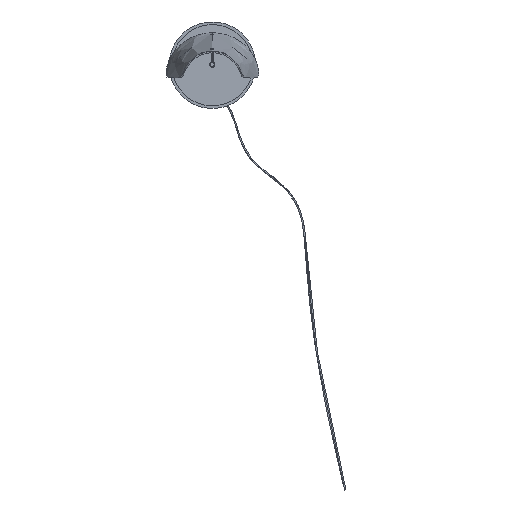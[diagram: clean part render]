
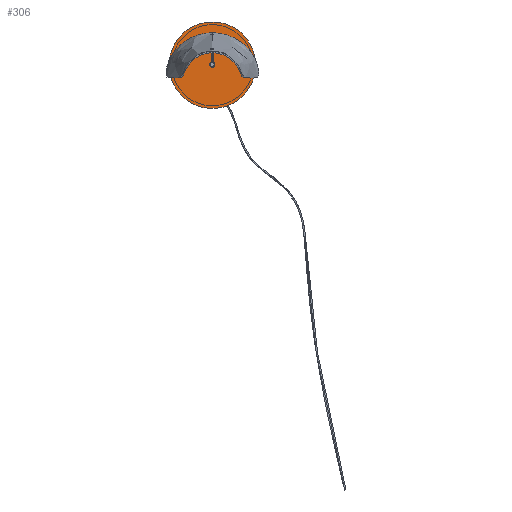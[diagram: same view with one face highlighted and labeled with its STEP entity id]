
A CAD part, top view. The second image highlights one B-rep face of the part: STEP entity #306.
In plain terms, the highlighted planar face has unit normal (0, 0, 1).
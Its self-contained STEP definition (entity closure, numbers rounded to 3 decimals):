
#293=FACE_BOUND('',#612,.T.);
#306=ADVANCED_FACE('',(#458,#293),#2173,.T.);
#458=FACE_OUTER_BOUND('',#611,.T.);
#611=EDGE_LOOP('',(#780,#781));
#612=EDGE_LOOP('',(#782,#783));
#780=ORIENTED_EDGE('',*,*,#1448,.T.);
#781=ORIENTED_EDGE('',*,*,#1454,.T.);
#782=ORIENTED_EDGE('',*,*,#1450,.T.);
#783=ORIENTED_EDGE('',*,*,#1457,.T.);
#1448=EDGE_CURVE('',#1970,#1974,#1785,.T.);
#1450=EDGE_CURVE('',#1972,#1976,#1787,.T.);
#1454=EDGE_CURVE('',#1974,#1970,#1791,.T.);
#1457=EDGE_CURVE('',#1976,#1972,#1794,.T.);
#1785=(
BOUNDED_CURVE()
B_SPLINE_CURVE(2,(#2455,#2456,#2457,#2458,#2459),.UNSPECIFIED.,.F.,.F.)
B_SPLINE_CURVE_WITH_KNOTS((3,2,3),(0.,251.327,502.655),
 .UNSPECIFIED.)
CURVE()
GEOMETRIC_REPRESENTATION_ITEM()
RATIONAL_B_SPLINE_CURVE((1.,0.707,1.,0.707,1.))
REPRESENTATION_ITEM('')
);
#1787=(
BOUNDED_CURVE()
B_SPLINE_CURVE(2,(#2465,#2466,#2467,#2468,#2469),.UNSPECIFIED.,.F.,.F.)
B_SPLINE_CURVE_WITH_KNOTS((3,2,3),(-56.549,-42.412,-28.274),
 .UNSPECIFIED.)
CURVE()
GEOMETRIC_REPRESENTATION_ITEM()
RATIONAL_B_SPLINE_CURVE((1.,0.707,1.,0.707,1.))
REPRESENTATION_ITEM('')
);
#1791=(
BOUNDED_CURVE()
B_SPLINE_CURVE(2,(#2479,#2480,#2481,#2482,#2483),.UNSPECIFIED.,.F.,.F.)
B_SPLINE_CURVE_WITH_KNOTS((3,2,3),(502.655,753.982,1005.31),
 .UNSPECIFIED.)
CURVE()
GEOMETRIC_REPRESENTATION_ITEM()
RATIONAL_B_SPLINE_CURVE((1.,0.707,1.,0.707,1.))
REPRESENTATION_ITEM('')
);
#1794=(
BOUNDED_CURVE()
B_SPLINE_CURVE(2,(#2491,#2492,#2493,#2494,#2495),.UNSPECIFIED.,.F.,.F.)
B_SPLINE_CURVE_WITH_KNOTS((3,2,3),(-28.274,-14.137,
0.),.UNSPECIFIED.)
CURVE()
GEOMETRIC_REPRESENTATION_ITEM()
RATIONAL_B_SPLINE_CURVE((1.,0.707,1.,0.707,1.))
REPRESENTATION_ITEM('')
);
#1970=VERTEX_POINT('',#2441);
#1972=VERTEX_POINT('',#2443);
#1974=VERTEX_POINT('',#2445);
#1976=VERTEX_POINT('',#2447);
#2173=PLANE('',#2315);
#2315=AXIS2_PLACEMENT_3D('',#2409,#2357,$);
#2357=DIRECTION('',(0.,0.,1.));
#2409=CARTESIAN_POINT('',(-200.,-200.,18.));
#2441=CARTESIAN_POINT('',(160.,0.,18.));
#2443=CARTESIAN_POINT('',(0.,9.,18.));
#2445=CARTESIAN_POINT('',(-160.,0.,18.));
#2447=CARTESIAN_POINT('',(0.,-9.,18.));
#2455=CARTESIAN_POINT('',(160.,0.,18.));
#2456=CARTESIAN_POINT('',(160.,160.,18.));
#2457=CARTESIAN_POINT('',(0.,160.,18.));
#2458=CARTESIAN_POINT('',(-160.,160.,18.));
#2459=CARTESIAN_POINT('',(-160.,0.,18.));
#2465=CARTESIAN_POINT('',(0.,9.,18.));
#2466=CARTESIAN_POINT('',(9.,9.,18.));
#2467=CARTESIAN_POINT('',(9.,0.,18.));
#2468=CARTESIAN_POINT('',(9.,-9.,18.));
#2469=CARTESIAN_POINT('',(0.,-9.,18.));
#2479=CARTESIAN_POINT('',(-160.,0.,18.));
#2480=CARTESIAN_POINT('',(-160.,-160.,18.));
#2481=CARTESIAN_POINT('',(0.,-160.,18.));
#2482=CARTESIAN_POINT('',(160.,-160.,18.));
#2483=CARTESIAN_POINT('',(160.,0.,18.));
#2491=CARTESIAN_POINT('',(0.,-9.,18.));
#2492=CARTESIAN_POINT('',(-9.,-9.,18.));
#2493=CARTESIAN_POINT('',(-9.,0.,18.));
#2494=CARTESIAN_POINT('',(-9.,9.,18.));
#2495=CARTESIAN_POINT('',(0.,9.,18.));
